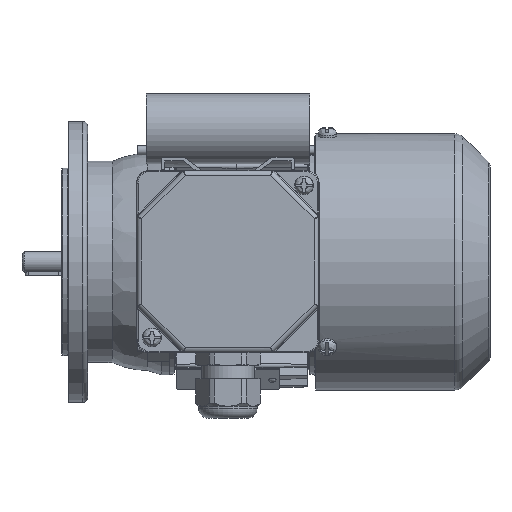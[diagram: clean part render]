
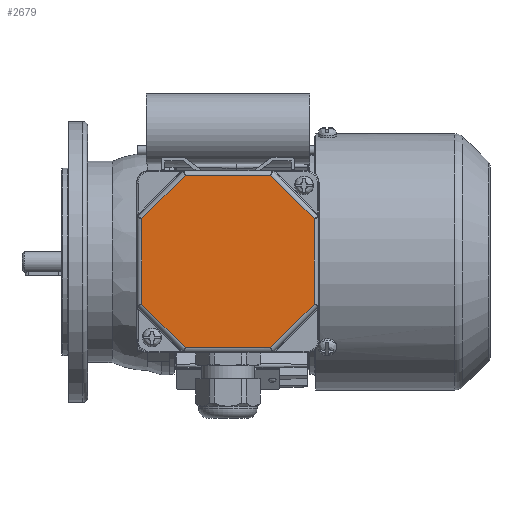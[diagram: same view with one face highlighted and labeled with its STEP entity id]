
A CAD part, top view. The second image highlights one B-rep face of the part: STEP entity #2679.
In plain terms, the highlighted planar face has unit normal (0, 0, 1).
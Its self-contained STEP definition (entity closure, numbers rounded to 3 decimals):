
#2679 = ADVANCED_FACE( '', ( #6281 ), #6282, .T. );
#6281 = FACE_OUTER_BOUND( '', #12167, .T. );
#6282 = PLANE( '', #12168 );
#12167 = EDGE_LOOP( '', ( #27830, #27831, #27832, #27833, #27834, #27835, #27836, #27837 ) );
#12168 = AXIS2_PLACEMENT_3D( '', #27838, #27839, #27840 );
#27830 = ORIENTED_EDGE( '', *, *, #41455, .T. );
#27831 = ORIENTED_EDGE( '', *, *, #41456, .T. );
#27832 = ORIENTED_EDGE( '', *, *, #41457, .T. );
#27833 = ORIENTED_EDGE( '', *, *, #41458, .T. );
#27834 = ORIENTED_EDGE( '', *, *, #41459, .T. );
#27835 = ORIENTED_EDGE( '', *, *, #41460, .T. );
#27836 = ORIENTED_EDGE( '', *, *, #41461, .T. );
#27837 = ORIENTED_EDGE( '', *, *, #41462, .T. );
#27838 = CARTESIAN_POINT( '', ( -39., 39., 12. ) );
#27839 = DIRECTION( '', ( 0., 0., 1. ) );
#27840 = DIRECTION( '', ( 1., 0., 0. ) );
#41455 = EDGE_CURVE( '', #48709, #48710, #48711, .F. );
#41456 = EDGE_CURVE( '', #48710, #48712, #48713, .T. );
#41457 = EDGE_CURVE( '', #48712, #48714, #48715, .F. );
#41458 = EDGE_CURVE( '', #48714, #48716, #48717, .T. );
#41459 = EDGE_CURVE( '', #48716, #48718, #48719, .F. );
#41460 = EDGE_CURVE( '', #48718, #48720, #48721, .T. );
#41461 = EDGE_CURVE( '', #48720, #48722, #48723, .F. );
#41462 = EDGE_CURVE( '', #48722, #48709, #48724, .T. );
#48709 = VERTEX_POINT( '', #59618 );
#48710 = VERTEX_POINT( '', #59619 );
#48711 = LINE( '', #59620, #59621 );
#48712 = VERTEX_POINT( '', #59622 );
#48713 = LINE( '', #59623, #59624 );
#48714 = VERTEX_POINT( '', #59625 );
#48715 = LINE( '', #59626, #59627 );
#48716 = VERTEX_POINT( '', #59628 );
#48717 = LINE( '', #59629, #59630 );
#48718 = VERTEX_POINT( '', #59631 );
#48719 = LINE( '', #59632, #59633 );
#48720 = VERTEX_POINT( '', #59634 );
#48721 = LINE( '', #59635, #59636 );
#48722 = VERTEX_POINT( '', #59637 );
#48723 = LINE( '', #59638, #59639 );
#48724 = LINE( '', #59640, #59641 );
#59618 = CARTESIAN_POINT( '', ( 36.825, -18.255, 12. ) );
#59619 = CARTESIAN_POINT( '', ( 36.825, 18.255, 12. ) );
#59620 = CARTESIAN_POINT( '', ( 36.825, 19.069, 12. ) );
#59621 = VECTOR( '', #76223, 1000. );
#59622 = CARTESIAN_POINT( '', ( 18.255, 36.825, 12. ) );
#59623 = CARTESIAN_POINT( '', ( 17.679, 37.401, 12. ) );
#59624 = VECTOR( '', #76224, 1000. );
#59625 = CARTESIAN_POINT( '', ( -18.255, 36.825, 12. ) );
#59626 = CARTESIAN_POINT( '', ( -19.069, 36.825, 12. ) );
#59627 = VECTOR( '', #76225, 1000. );
#59628 = CARTESIAN_POINT( '', ( -36.825, 18.255, 12. ) );
#59629 = CARTESIAN_POINT( '', ( -37.401, 17.679, 12. ) );
#59630 = VECTOR( '', #76226, 1000. );
#59631 = CARTESIAN_POINT( '', ( -36.825, -18.255, 12. ) );
#59632 = CARTESIAN_POINT( '', ( -36.825, -19.069, 12. ) );
#59633 = VECTOR( '', #76227, 1000. );
#59634 = CARTESIAN_POINT( '', ( -18.255, -36.825, 12. ) );
#59635 = CARTESIAN_POINT( '', ( -17.679, -37.401, 12. ) );
#59636 = VECTOR( '', #76228, 1000. );
#59637 = CARTESIAN_POINT( '', ( 18.255, -36.825, 12. ) );
#59638 = CARTESIAN_POINT( '', ( 19.069, -36.825, 12. ) );
#59639 = VECTOR( '', #76229, 1000. );
#59640 = CARTESIAN_POINT( '', ( 37.401, -17.679, 12. ) );
#59641 = VECTOR( '', #76230, 1000. );
#76223 = DIRECTION( '', ( 0., -1., 0. ) );
#76224 = DIRECTION( '', ( -0.707, 0.707, 0. ) );
#76225 = DIRECTION( '', ( 1., 0., 0. ) );
#76226 = DIRECTION( '', ( -0.707, -0.707, 0. ) );
#76227 = DIRECTION( '', ( 0., 1., 0. ) );
#76228 = DIRECTION( '', ( 0.707, -0.707, 0. ) );
#76229 = DIRECTION( '', ( -1., 0., 0. ) );
#76230 = DIRECTION( '', ( 0.707, 0.707, 0. ) );
